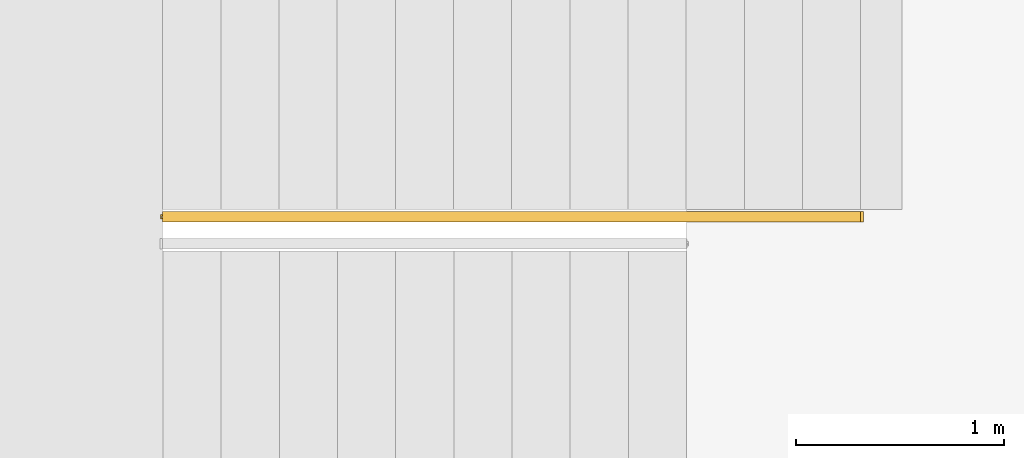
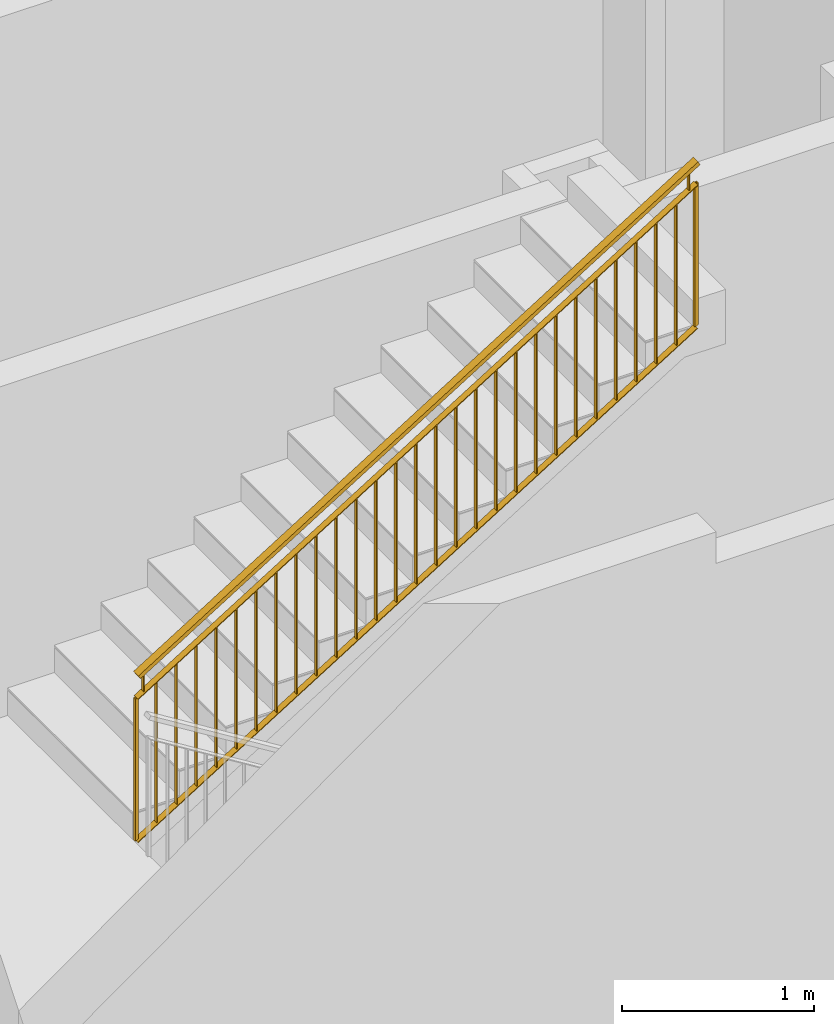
# One storey, part 7 of 46: 1 railing.
"""IFC2X3 building model written with IfcOpenShell, lengths in millimetres."""

from ifc_helpers import new_model, entity, si_unit, converted_unit, derived_unit, money_unit, direction, frame, origin_with_axes, place, context, subcontext, project, spatial, faceted_brep, material, material_list, type_object, element, save


model = new_model("IFC2X3")

# Units and contexts
model_context = context("Model", 3, precision=0.01, world=origin_with_axes(), true_north=direction((0.34421633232, 0.938890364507)))
body_context = subcontext(model_context, "Body", "Model", "MODEL_VIEW")
ifc_project = project(units=[si_unit("LENGTHUNIT", "METRE", prefix="MILLI"), si_unit("AREAUNIT", "SQUARE_METRE"), si_unit("VOLUMEUNIT", "CUBIC_METRE"), converted_unit("PLANEANGLEUNIT", "DEGREE", entity("IfcPlaneAngleMeasure", 0.0174532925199), si_unit("PLANEANGLEUNIT", "RADIAN"), dimensions=[0, 0, 0, 0, 0, 0, 0]), si_unit("SOLIDANGLEUNIT", "STERADIAN"), money_unit("USD"), converted_unit("TIMEUNIT", "Year", entity("IfcTimeMeasure", 31556926.0), si_unit("TIMEUNIT", "SECOND"), dimensions=[0, 0, 1, 0, 0, 0, 0]), si_unit("MASSUNIT", "GRAM", prefix="KILO"), si_unit("THERMODYNAMICTEMPERATUREUNIT", "DEGREE_CELSIUS"), si_unit("LUMINOUSINTENSITYUNIT", "LUMEN"), si_unit("ENERGYUNIT", "JOULE", prefix="MEGA"), derived_unit("THERMALCONDUCTANCEUNIT", [(si_unit("POWERUNIT", "WATT"), 1), (si_unit("LENGTHUNIT", "METRE"), -1), (si_unit("THERMODYNAMICTEMPERATUREUNIT", "KELVIN"), -1)]), derived_unit("SPECIFICHEATCAPACITYUNIT", [(si_unit("ENERGYUNIT", "JOULE"), 1), (si_unit("MASSUNIT", "GRAM", prefix="KILO"), -1), (si_unit("THERMODYNAMICTEMPERATUREUNIT", "KELVIN"), -1)]), derived_unit("MASSDENSITYUNIT", [(si_unit("MASSUNIT", "GRAM", prefix="KILO"), 1), (si_unit("VOLUMEUNIT", "CUBIC_METRE"), -1)])], contexts=[model_context])

# Site, building, storey
site_placement = place(None, origin_with_axes())
site = spatial("IfcSite", under=ifc_project, at=site_placement, Name="USTRONIE MORSKIE", CompositionType="ELEMENT")
building_placement = place(site_placement, origin_with_axes())
building = spatial("IfcBuilding", under=site, at=building_placement, Name="Budynek", CompositionType="ELEMENT")
storey_placement = place(building_placement, origin_with_axes())
storey = spatial("IfcBuildingStorey", under=building, at=storey_placement, Name="PARTER", CompositionType="ELEMENT", Elevation=0.0)

# Railing
ifc_material_1 = material(Name="Stal konstrukcyjna")
ifc_material_2 = material(Name="Stal nierdzewna")
ifc_material_list = material_list([ifc_material_1, ifc_material_1, ifc_material_2, ifc_material_2, ifc_material_2, ifc_material_1, ifc_material_1, ifc_material_1, ifc_material_1, ifc_material_1, ifc_material_1, ifc_material_1, ifc_material_1, ifc_material_1, ifc_material_1, ifc_material_1, ifc_material_1, ifc_material_1, ifc_material_1, ifc_material_1, ifc_material_1, ifc_material_1, ifc_material_1, ifc_material_1, ifc_material_1, ifc_material_1, ifc_material_1, ifc_material_1, ifc_material_1, ifc_material_1, ifc_material_1, ifc_material_1])
railing_type = type_object("IfcRailingType", Name="Typ balustrady", PredefinedType="NOTDEFINED")
railing_placement = place(storey_placement, frame((410217.939416, 728501.199036, 1913.04347826), z_axis=(0.0, 0.0, 1.0), x_axis=(1.0, 0.0, 0.0)))
element("IfcRailing", 1, at=railing_placement, inside=storey, type_object=railing_type, material=ifc_material_list, Name="BL1", PredefinedType="NOTDEFINED", context=body_context, shape_type="Brep", body=[
    faceted_brep([(9.99999999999, -45.0, -143.788819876), (9.99999999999, -25.0, -143.788819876), (9.99999999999, -25.0, 756.211180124), (9.99999999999, -45.0, 756.211180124), (-9.99999999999, -45.0, -156.211180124), (-9.99999999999, -25.0, -156.211180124), (5.0, -40.0, -146.894409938), (5.0, -30.0, -146.894409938), (-5.0, -30.0, -153.105590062), (-5.0, -40.0, -153.105590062), (-9.99999999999, -25.0, 743.788819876), (-9.99999999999, -45.0, 743.788819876), (5.0, -40.0, 753.105590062), (-5.0, -40.0, 746.894409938), (-5.0, -30.0, 746.894409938), (5.0, -30.0, 753.105590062)], [[[0, 1, 2, 3]], [[0, 4, 5, 1], [6, 7, 8, 9]], [[1, 5, 10, 2]], [[3, 2, 10, 11], [12, 13, 14, 15]], [[4, 0, 3, 11]], [[5, 4, 11, 10]], [[7, 6, 12, 15]], [[8, 7, 15, 14]], [[9, 8, 14, 13]], [[6, 9, 13, 12]]]),
    faceted_brep([(3370.0, -45.0, 1943.16770186), (3370.0, -25.0, 1943.16770186), (3370.0, -25.0, 2843.16770186), (3370.0, -45.0, 2843.16770186), (3350.0, -45.0, 1930.74534161), (3350.0, -25.0, 1930.74534161), (3365.0, -40.0, 1940.0621118), (3365.0, -30.0, 1940.0621118), (3355.0, -30.0, 1933.85093168), (3355.0, -40.0, 1933.85093168), (3350.0, -25.0, 2830.74534161), (3350.0, -45.0, 2830.74534161), (3365.0, -40.0, 2840.0621118), (3355.0, -40.0, 2833.85093168), (3355.0, -30.0, 2833.85093168), (3365.0, -30.0, 2840.0621118)], [[[0, 1, 2, 3]], [[0, 4, 5, 1], [6, 7, 8, 9]], [[1, 5, 10, 2]], [[3, 2, 10, 11], [12, 13, 14, 15]], [[4, 0, 3, 11]], [[5, 4, 11, 10]], [[7, 6, 12, 15]], [[8, 7, 15, 14]], [[9, 8, 14, 13]], [[6, 9, 13, 12]]]),
    faceted_brep([(0.0, -59.9999999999, 900.0), (13.1906379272, -59.9999999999, 878.763072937), (3373.19063793, -59.9999999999, 2965.71959468), (3360.0, -59.9999999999, 2986.95652174), (0.0, -9.99999999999, 900.0), (13.1906379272, -9.99999999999, 878.763072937), (13.1906379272, -25.0, 878.763072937), (10.5525103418, -25.0, 883.01045835), (10.5525103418, -45.0, 883.01045835), (13.1906379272, -45.0, 878.763072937), (3373.19063793, -45.0, 2965.71959468), (3370.55251034, -45.0, 2969.96698009), (3370.55251034, -25.0, 2969.96698009), (3373.19063793, -25.0, 2965.71959468), (3373.19063793, -9.99999999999, 2965.71959468), (3360.0, -9.99999999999, 2986.95652174)], [[[0, 1, 2, 3]], [[0, 4, 5, 6, 7, 8, 9, 1]], [[1, 9, 10, 2]], [[3, 2, 10, 11, 12, 13, 14, 15]], [[4, 0, 3, 15]], [[5, 4, 15, 14]], [[6, 5, 14, 13]], [[7, 6, 13, 12]], [[8, 7, 12, 11]], [[9, 8, 11, 10]]]),
    faceted_brep([(13.1906379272, -45.0, 878.763072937), (13.1906379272, -25.0, 878.763072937), (3373.19063793, -25.0, 2965.71959468), (3373.19063793, -45.0, 2965.71959468), (10.5525103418, -45.0, 883.01045835), (10.5525103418, -25.0, 883.01045835), (3370.55251034, -25.0, 2969.96698009), (3370.55251034, -45.0, 2969.96698009)], [[[0, 1, 2, 3]], [[0, 4, 5, 1]], [[1, 5, 6, 2]], [[3, 2, 6, 7]], [[4, 0, 3, 7]], [[5, 4, 7, 6]]]),
    faceted_brep([(44.9738541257, -45.0, 776.95140598), (44.9738541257, -25.0, 776.95140598), (44.9738541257, -25.0, 898.504201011), (44.9738541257, -45.0, 898.504201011), (39.9738541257, -45.0, 776.95140598), (39.9738541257, -25.0, 776.95140598), (39.9738541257, -25.0, 896.95140598), (42.4738541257, -25.0, 898.504201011), (42.4738541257, -45.0, 898.504201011), (39.9738541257, -45.0, 896.95140598)], [[[0, 1, 2, 3]], [[0, 4, 5, 1]], [[1, 5, 6, 7, 2]], [[3, 2, 7, 8]], [[4, 0, 3, 8, 9]], [[5, 4, 9, 6]], [[7, 6, 9, 8]]]),
    faceted_brep([(3320.02614587, -45.0, 2811.14537601), (3320.02614587, -25.0, 2811.14537601), (3320.02614587, -25.0, 2932.69817104), (3320.02614587, -45.0, 2932.69817104), (3315.02614587, -45.0, 2811.14537601), (3315.02614587, -25.0, 2811.14537601), (3315.02614587, -25.0, 2931.14537601), (3317.52614587, -25.0, 2932.69817104), (3317.52614587, -45.0, 2932.69817104), (3315.02614587, -45.0, 2931.14537601)], [[[0, 1, 2, 3]], [[0, 4, 5, 1]], [[1, 5, 6, 7, 2]], [[3, 2, 7, 8]], [[4, 0, 3, 8, 9]], [[5, 4, 9, 6]], [[7, 6, 9, 8]]]),
    faceted_brep([(0.0, -54.9999999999, 750.0), (2.63812758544, -54.9999999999, 745.752614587), (3362.63812759, -54.9999999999, 2832.70913633), (3360.0, -54.9999999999, 2836.95652174), (0.0, -15.0, 750.0), (2.63812758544, -15.0, 745.752614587), (3362.63812759, -15.0, 2832.70913633), (3360.0, -15.0, 2836.95652174)], [[[0, 1, 2, 3]], [[0, 4, 5, 1]], [[1, 5, 6, 2]], [[3, 2, 6, 7]], [[4, 0, 3, 7]], [[5, 4, 7, 6]]]),
    faceted_brep([(-1.31906379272, -54.9999999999, -157.876307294), (1.31906379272, -54.9999999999, -162.123692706), (3361.31906379, -54.9999999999, 1924.83282903), (3358.68093621, -54.9999999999, 1929.08021445), (-1.31906379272, -15.0, -157.876307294), (1.31906379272, -15.0, -162.123692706), (3361.31906379, -15.0, 1924.83282903), (3358.68093621, -15.0, 1929.08021445)], [[[0, 1, 2, 3]], [[0, 4, 5, 1]], [[1, 5, 6, 2]], [[3, 2, 6, 7]], [[4, 0, 3, 7]], [[5, 4, 7, 6]]]),
    faceted_brep([(122.5, -47.5, -78.9130434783), (122.5, -22.4999999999, -78.9130434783), (122.5, -22.4999999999, 821.086956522), (122.5, -47.5, 821.086956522), (117.5, -47.5, -82.0186335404), (117.5, -22.4999999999, -82.0186335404), (117.5, -22.4999999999, 817.98136646), (117.5, -47.5, 817.98136646)], [[[0, 1, 2, 3]], [[0, 4, 5, 1]], [[1, 5, 6, 2]], [[3, 2, 6, 7]], [[4, 0, 3, 7]], [[5, 4, 7, 6]]]),
    faceted_brep([(242.5, -47.5, -4.37888198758), (242.5, -22.4999999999, -4.37888198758), (242.5, -22.4999999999, 895.621118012), (242.5, -47.5, 895.621118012), (237.5, -47.5, -7.48447204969), (237.5, -22.4999999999, -7.48447204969), (237.5, -22.4999999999, 892.51552795), (237.5, -47.5, 892.51552795)], [[[0, 1, 2, 3]], [[0, 4, 5, 1]], [[1, 5, 6, 2]], [[3, 2, 6, 7]], [[4, 0, 3, 7]], [[5, 4, 7, 6]]]),
    faceted_brep([(362.5, -47.5, 70.1552795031), (362.5, -22.4999999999, 70.1552795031), (362.5, -22.4999999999, 970.155279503), (362.5, -47.5, 970.155279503), (357.5, -47.5, 67.049689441), (357.5, -22.4999999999, 67.049689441), (357.5, -22.4999999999, 967.049689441), (357.5, -47.5, 967.049689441)], [[[0, 1, 2, 3]], [[0, 4, 5, 1]], [[1, 5, 6, 2]], [[3, 2, 6, 7]], [[4, 0, 3, 7]], [[5, 4, 7, 6]]]),
    faceted_brep([(482.5, -47.5, 144.689440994), (482.5, -22.4999999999, 144.689440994), (482.5, -22.4999999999, 1044.68944099), (482.5, -47.5, 1044.68944099), (477.5, -47.5, 141.583850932), (477.5, -22.4999999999, 141.583850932), (477.5, -22.4999999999, 1041.58385093), (477.5, -47.5, 1041.58385093)], [[[0, 1, 2, 3]], [[0, 4, 5, 1]], [[1, 5, 6, 2]], [[3, 2, 6, 7]], [[4, 0, 3, 7]], [[5, 4, 7, 6]]]),
    faceted_brep([(602.5, -47.5, 219.223602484), (602.5, -22.4999999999, 219.223602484), (602.5, -22.4999999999, 1119.22360248), (602.5, -47.5, 1119.22360248), (597.5, -47.5, 216.118012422), (597.5, -22.4999999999, 216.118012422), (597.5, -22.4999999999, 1116.11801242), (597.5, -47.5, 1116.11801242)], [[[0, 1, 2, 3]], [[0, 4, 5, 1]], [[1, 5, 6, 2]], [[3, 2, 6, 7]], [[4, 0, 3, 7]], [[5, 4, 7, 6]]]),
    faceted_brep([(722.5, -47.5, 293.757763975), (722.5, -22.4999999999, 293.757763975), (722.5, -22.4999999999, 1193.75776398), (722.5, -47.5, 1193.75776398), (717.5, -47.5, 290.652173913), (717.5, -22.4999999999, 290.652173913), (717.5, -22.4999999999, 1190.65217391), (717.5, -47.5, 1190.65217391)], [[[0, 1, 2, 3]], [[0, 4, 5, 1]], [[1, 5, 6, 2]], [[3, 2, 6, 7]], [[4, 0, 3, 7]], [[5, 4, 7, 6]]]),
    faceted_brep([(842.5, -47.5, 368.291925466), (842.5, -22.4999999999, 368.291925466), (842.5, -22.4999999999, 1268.29192547), (842.5, -47.5, 1268.29192547), (837.5, -47.5, 365.186335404), (837.5, -22.4999999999, 365.186335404), (837.5, -22.4999999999, 1265.1863354), (837.5, -47.5, 1265.1863354)], [[[0, 1, 2, 3]], [[0, 4, 5, 1]], [[1, 5, 6, 2]], [[3, 2, 6, 7]], [[4, 0, 3, 7]], [[5, 4, 7, 6]]]),
    faceted_brep([(962.5, -47.5, 442.826086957), (962.5, -22.4999999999, 442.826086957), (962.5, -22.4999999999, 1342.82608696), (962.5, -47.5, 1342.82608696), (957.5, -47.5, 439.720496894), (957.5, -22.4999999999, 439.720496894), (957.5, -22.4999999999, 1339.72049689), (957.5, -47.5, 1339.72049689)], [[[0, 1, 2, 3]], [[0, 4, 5, 1]], [[1, 5, 6, 2]], [[3, 2, 6, 7]], [[4, 0, 3, 7]], [[5, 4, 7, 6]]]),
    faceted_brep([(1082.5, -47.5, 517.360248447), (1082.5, -22.4999999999, 517.360248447), (1082.5, -22.4999999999, 1417.36024845), (1082.5, -47.5, 1417.36024845), (1077.5, -47.5, 514.254658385), (1077.5, -22.4999999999, 514.254658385), (1077.5, -22.4999999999, 1414.25465839), (1077.5, -47.5, 1414.25465839)], [[[0, 1, 2, 3]], [[0, 4, 5, 1]], [[1, 5, 6, 2]], [[3, 2, 6, 7]], [[4, 0, 3, 7]], [[5, 4, 7, 6]]]),
    faceted_brep([(1202.5, -47.5, 591.894409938), (1202.5, -22.4999999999, 591.894409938), (1202.5, -22.4999999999, 1491.89440994), (1202.5, -47.5, 1491.89440994), (1197.5, -47.5, 588.788819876), (1197.5, -22.4999999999, 588.788819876), (1197.5, -22.4999999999, 1488.78881988), (1197.5, -47.5, 1488.78881988)], [[[0, 1, 2, 3]], [[0, 4, 5, 1]], [[1, 5, 6, 2]], [[3, 2, 6, 7]], [[4, 0, 3, 7]], [[5, 4, 7, 6]]]),
    faceted_brep([(1322.5, -47.5, 666.428571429), (1322.5, -22.4999999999, 666.428571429), (1322.5, -22.4999999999, 1566.42857143), (1322.5, -47.5, 1566.42857143), (1317.5, -47.5, 663.322981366), (1317.5, -22.4999999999, 663.322981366), (1317.5, -22.4999999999, 1563.32298137), (1317.5, -47.5, 1563.32298137)], [[[0, 1, 2, 3]], [[0, 4, 5, 1]], [[1, 5, 6, 2]], [[3, 2, 6, 7]], [[4, 0, 3, 7]], [[5, 4, 7, 6]]]),
    faceted_brep([(1442.5, -47.5, 740.962732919), (1442.5, -22.4999999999, 740.962732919), (1442.5, -22.4999999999, 1640.96273292), (1442.5, -47.5, 1640.96273292), (1437.5, -47.5, 737.857142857), (1437.5, -22.4999999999, 737.857142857), (1437.5, -22.4999999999, 1637.85714286), (1437.5, -47.5, 1637.85714286)], [[[0, 1, 2, 3]], [[0, 4, 5, 1]], [[1, 5, 6, 2]], [[3, 2, 6, 7]], [[4, 0, 3, 7]], [[5, 4, 7, 6]]]),
    faceted_brep([(1562.5, -47.5, 815.49689441), (1562.5, -22.4999999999, 815.49689441), (1562.5, -22.4999999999, 1715.49689441), (1562.5, -47.5, 1715.49689441), (1557.5, -47.5, 812.391304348), (1557.5, -22.4999999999, 812.391304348), (1557.5, -22.4999999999, 1712.39130435), (1557.5, -47.5, 1712.39130435)], [[[0, 1, 2, 3]], [[0, 4, 5, 1]], [[1, 5, 6, 2]], [[3, 2, 6, 7]], [[4, 0, 3, 7]], [[5, 4, 7, 6]]]),
    faceted_brep([(1682.5, -47.5, 890.031055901), (1682.5, -22.4999999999, 890.031055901), (1682.5, -22.4999999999, 1790.0310559), (1682.5, -47.5, 1790.0310559), (1677.5, -47.5, 886.925465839), (1677.5, -22.4999999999, 886.925465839), (1677.5, -22.4999999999, 1786.92546584), (1677.5, -47.5, 1786.92546584)], [[[0, 1, 2, 3]], [[0, 4, 5, 1]], [[1, 5, 6, 2]], [[3, 2, 6, 7]], [[4, 0, 3, 7]], [[5, 4, 7, 6]]]),
    faceted_brep([(1802.5, -47.5, 964.565217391), (1802.5, -22.4999999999, 964.565217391), (1802.5, -22.4999999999, 1864.56521739), (1802.5, -47.5, 1864.56521739), (1797.5, -47.5, 961.459627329), (1797.5, -22.4999999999, 961.459627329), (1797.5, -22.4999999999, 1861.45962733), (1797.5, -47.5, 1861.45962733)], [[[0, 1, 2, 3]], [[0, 4, 5, 1]], [[1, 5, 6, 2]], [[3, 2, 6, 7]], [[4, 0, 3, 7]], [[5, 4, 7, 6]]]),
    faceted_brep([(1922.5, -47.5, 1039.09937888), (1922.5, -22.4999999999, 1039.09937888), (1922.5, -22.4999999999, 1939.09937888), (1922.5, -47.5, 1939.09937888), (1917.5, -47.5, 1035.99378882), (1917.5, -22.4999999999, 1035.99378882), (1917.5, -22.4999999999, 1935.99378882), (1917.5, -47.5, 1935.99378882)], [[[0, 1, 2, 3]], [[0, 4, 5, 1]], [[1, 5, 6, 2]], [[3, 2, 6, 7]], [[4, 0, 3, 7]], [[5, 4, 7, 6]]]),
    faceted_brep([(2042.5, -47.5, 1113.63354037), (2042.5, -22.4999999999, 1113.63354037), (2042.5, -22.4999999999, 2013.63354037), (2042.5, -47.5, 2013.63354037), (2037.5, -47.5, 1110.52795031), (2037.5, -22.4999999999, 1110.52795031), (2037.5, -22.4999999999, 2010.52795031), (2037.5, -47.5, 2010.52795031)], [[[0, 1, 2, 3]], [[0, 4, 5, 1]], [[1, 5, 6, 2]], [[3, 2, 6, 7]], [[4, 0, 3, 7]], [[5, 4, 7, 6]]]),
    faceted_brep([(2162.5, -47.5, 1188.16770186), (2162.5, -22.4999999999, 1188.16770186), (2162.5, -22.4999999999, 2088.16770186), (2162.5, -47.5, 2088.16770186), (2157.5, -47.5, 1185.0621118), (2157.5, -22.4999999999, 1185.0621118), (2157.5, -22.4999999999, 2085.0621118), (2157.5, -47.5, 2085.0621118)], [[[0, 1, 2, 3]], [[0, 4, 5, 1]], [[1, 5, 6, 2]], [[3, 2, 6, 7]], [[4, 0, 3, 7]], [[5, 4, 7, 6]]]),
    faceted_brep([(2282.5, -47.5, 1262.70186335), (2282.5, -22.4999999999, 1262.70186335), (2282.5, -22.4999999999, 2162.70186335), (2282.5, -47.5, 2162.70186335), (2277.5, -47.5, 1259.59627329), (2277.5, -22.4999999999, 1259.59627329), (2277.5, -22.4999999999, 2159.59627329), (2277.5, -47.5, 2159.59627329)], [[[0, 1, 2, 3]], [[0, 4, 5, 1]], [[1, 5, 6, 2]], [[3, 2, 6, 7]], [[4, 0, 3, 7]], [[5, 4, 7, 6]]]),
    faceted_brep([(2402.5, -47.5, 1337.23602484), (2402.5, -22.4999999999, 1337.23602484), (2402.5, -22.4999999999, 2237.23602484), (2402.5, -47.5, 2237.23602484), (2397.5, -47.5, 1334.13043478), (2397.5, -22.4999999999, 1334.13043478), (2397.5, -22.4999999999, 2234.13043478), (2397.5, -47.5, 2234.13043478)], [[[0, 1, 2, 3]], [[0, 4, 5, 1]], [[1, 5, 6, 2]], [[3, 2, 6, 7]], [[4, 0, 3, 7]], [[5, 4, 7, 6]]]),
    faceted_brep([(2522.5, -47.5, 1411.77018634), (2522.5, -22.4999999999, 1411.77018634), (2522.5, -22.4999999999, 2311.77018634), (2522.5, -47.5, 2311.77018634), (2517.5, -47.5, 1408.66459627), (2517.5, -22.4999999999, 1408.66459627), (2517.5, -22.4999999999, 2308.66459627), (2517.5, -47.5, 2308.66459627)], [[[0, 1, 2, 3]], [[0, 4, 5, 1]], [[1, 5, 6, 2]], [[3, 2, 6, 7]], [[4, 0, 3, 7]], [[5, 4, 7, 6]]]),
    faceted_brep([(2642.5, -47.5, 1486.30434783), (2642.5, -22.4999999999, 1486.30434783), (2642.5, -22.4999999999, 2386.30434783), (2642.5, -47.5, 2386.30434783), (2637.5, -47.5, 1483.19875776), (2637.5, -22.4999999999, 1483.19875776), (2637.5, -22.4999999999, 2383.19875776), (2637.5, -47.5, 2383.19875776)], [[[0, 1, 2, 3]], [[0, 4, 5, 1]], [[1, 5, 6, 2]], [[3, 2, 6, 7]], [[4, 0, 3, 7]], [[5, 4, 7, 6]]]),
    faceted_brep([(2762.5, -47.5, 1560.83850932), (2762.5, -22.4999999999, 1560.83850932), (2762.5, -22.4999999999, 2460.83850932), (2762.5, -47.5, 2460.83850932), (2757.5, -47.5, 1557.73291925), (2757.5, -22.4999999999, 1557.73291925), (2757.5, -22.4999999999, 2457.73291925), (2757.5, -47.5, 2457.73291925)], [[[0, 1, 2, 3]], [[0, 4, 5, 1]], [[1, 5, 6, 2]], [[3, 2, 6, 7]], [[4, 0, 3, 7]], [[5, 4, 7, 6]]]),
    faceted_brep([(2882.5, -47.5, 1635.37267081), (2882.5, -22.4999999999, 1635.37267081), (2882.5, -22.4999999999, 2535.37267081), (2882.5, -47.5, 2535.37267081), (2877.5, -47.5, 1632.26708075), (2877.5, -22.4999999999, 1632.26708075), (2877.5, -22.4999999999, 2532.26708075), (2877.5, -47.5, 2532.26708075)], [[[0, 1, 2, 3]], [[0, 4, 5, 1]], [[1, 5, 6, 2]], [[3, 2, 6, 7]], [[4, 0, 3, 7]], [[5, 4, 7, 6]]]),
    faceted_brep([(3002.5, -47.5, 1709.9068323), (3002.5, -22.4999999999, 1709.9068323), (3002.5, -22.4999999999, 2609.9068323), (3002.5, -47.5, 2609.9068323), (2997.5, -47.5, 1706.80124224), (2997.5, -22.4999999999, 1706.80124224), (2997.5, -22.4999999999, 2606.80124224), (2997.5, -47.5, 2606.80124224)], [[[0, 1, 2, 3]], [[0, 4, 5, 1]], [[1, 5, 6, 2]], [[3, 2, 6, 7]], [[4, 0, 3, 7]], [[5, 4, 7, 6]]]),
    faceted_brep([(3122.5, -47.5, 1784.44099379), (3122.5, -22.4999999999, 1784.44099379), (3122.5, -22.4999999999, 2684.44099379), (3122.5, -47.5, 2684.44099379), (3117.5, -47.5, 1781.33540373), (3117.5, -22.4999999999, 1781.33540373), (3117.5, -22.4999999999, 2681.33540373), (3117.5, -47.5, 2681.33540373)], [[[0, 1, 2, 3]], [[0, 4, 5, 1]], [[1, 5, 6, 2]], [[3, 2, 6, 7]], [[4, 0, 3, 7]], [[5, 4, 7, 6]]]),
    faceted_brep([(3242.5, -47.5, 1858.97515528), (3242.5, -22.4999999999, 1858.97515528), (3242.5, -22.4999999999, 2758.97515528), (3242.5, -47.5, 2758.97515528), (3237.5, -47.5, 1855.86956522), (3237.5, -22.4999999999, 1855.86956522), (3237.5, -22.4999999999, 2755.86956522), (3237.5, -47.5, 2755.86956522)], [[[0, 1, 2, 3]], [[0, 4, 5, 1]], [[1, 5, 6, 2]], [[3, 2, 6, 7]], [[4, 0, 3, 7]], [[5, 4, 7, 6]]]),
])

save(model, "model.ifc")
